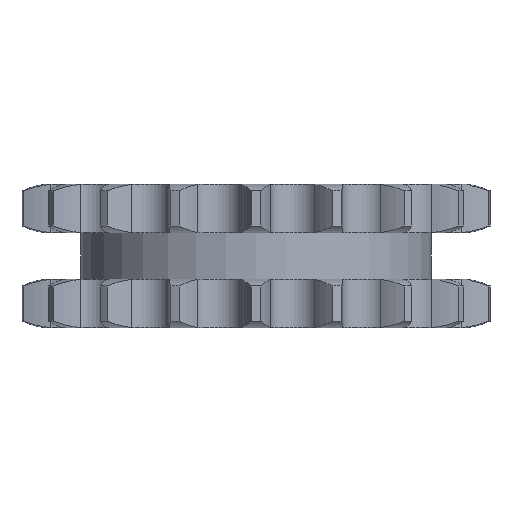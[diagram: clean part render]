
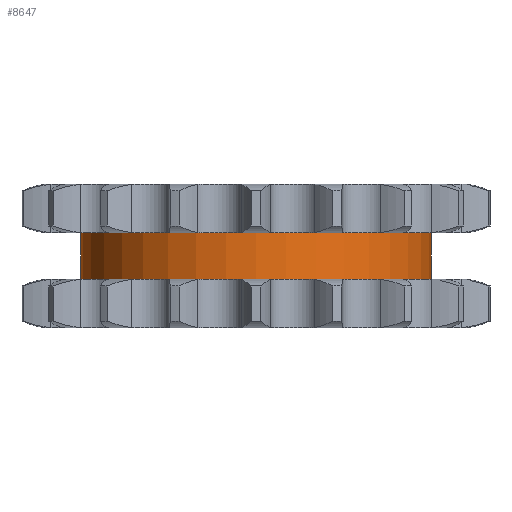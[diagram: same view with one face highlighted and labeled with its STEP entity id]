
A CAD part, left-side view. The second image highlights one B-rep face of the part: STEP entity #8647.
In plain terms, the highlighted cylindrical face has radius 58.136 mm (diameter 116.273 mm), a partial arc.
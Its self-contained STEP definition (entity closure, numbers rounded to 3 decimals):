
#1158=CARTESIAN_POINT('',(0.,0.,-7.65));
#1159=DIRECTION('',(0.,0.,1.));
#1160=DIRECTION('',(0.,1.,0.));
#1161=AXIS2_PLACEMENT_3D('',#1158,#1159,#1160);
#1318=DIRECTION('',(0.,0.,-1.));
#1319=VECTOR('',#1318,15.3);
#1320=CARTESIAN_POINT('',(0.,58.136,7.65));
#1321=LINE('',#1320,#1319);
#1325=CARTESIAN_POINT('',(0.,0.,7.65));
#1326=DIRECTION('',(0.,0.,1.));
#1327=DIRECTION('',(0.,1.,0.));
#1328=AXIS2_PLACEMENT_3D('',#1325,#1326,#1327);
#1333=DIRECTION('',(0.,0.,-1.));
#1334=VECTOR('',#1333,15.3);
#1335=CARTESIAN_POINT('',(0.,-58.136,7.65));
#1336=LINE('',#1335,#1334);
#6591=CARTESIAN_POINT('',(0.,58.136,7.65));
#6592=CARTESIAN_POINT('',(0.,58.136,-7.65));
#6593=VERTEX_POINT('',#6591);
#6594=VERTEX_POINT('',#6592);
#6595=CARTESIAN_POINT('',(0.,-58.136,7.65));
#6596=CARTESIAN_POINT('',(0.,-58.136,-7.65));
#6597=VERTEX_POINT('',#6595);
#6598=VERTEX_POINT('',#6596);
#8633=CARTESIAN_POINT('',(0.,0.,8.415));
#8634=DIRECTION('',(0.,0.,-1.));
#8635=DIRECTION('',(0.,-1.,0.));
#8636=AXIS2_PLACEMENT_3D('',#8633,#8634,#8635);
#8637=CYLINDRICAL_SURFACE('',#8636,58.136);
#8639=ORIENTED_EDGE('',*,*,#8638,.F.);
#8641=ORIENTED_EDGE('',*,*,#8640,.T.);
#8643=ORIENTED_EDGE('',*,*,#8642,.T.);
#8644=ORIENTED_EDGE('',*,*,#8626,.F.);
#8645=EDGE_LOOP('',(#8639,#8641,#8643,#8644));
#8646=FACE_OUTER_BOUND('',#8645,.F.);
#8647=ADVANCED_FACE('',(#8646),#8637,.T.);
#1162=CIRCLE('',#1161,58.136);
#1329=CIRCLE('',#1328,58.136);
#8626=EDGE_CURVE('',#6594,#6598,#1162,.T.);
#8638=EDGE_CURVE('',#6593,#6594,#1321,.T.);
#8640=EDGE_CURVE('',#6593,#6597,#1329,.T.);
#8642=EDGE_CURVE('',#6597,#6598,#1336,.T.);
